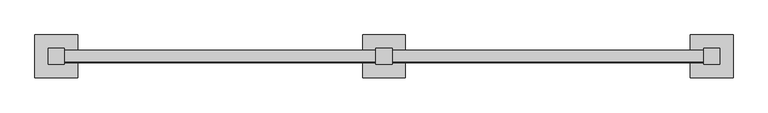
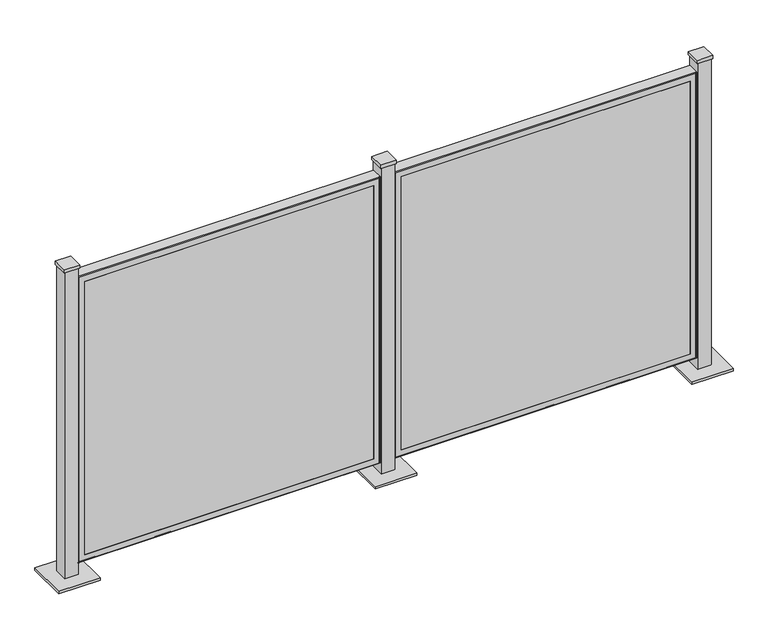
"""IFC4 building model written with IfcOpenShell, lengths in millimetres: proxy geometry, VIVA-Railings_Special-Equipment_Architectural-Fence-&-Landscape-Screens : 44” x 44” - Aluminum 1/8''."""

from ifc_helpers import new_model, si_unit, frame, origin, origin_with_axes, place, context, project, spatial, polyline, ellipse_curve, outline, extrude, source, transform, mapped, element, save
from ifc_brep_helpers import plane_surface, cylinder_surface, revolved_surface, advanced_brep


def specialty_equipment_0be25000(model_context):
    return source(origin(), model_context, "Body", "SolidModel", [
        extrude(outline(polyline([(2489.2, 76.2), (2489.2, -76.2), (2336.8, -76.2), (2336.8, 76.2), (2489.2, 76.2)])), origin_with_axes(), (0.0, 0.0, 1.0), 9.525),
        extrude(outline(polyline([(2441.575, -28.575), (2384.425, -28.575), (2384.425, 28.575), (2441.575, 28.575), (2441.575, -28.575)])), frame((0.0, 0.0, 1206.5), z_axis=(0.0, 0.0, 1.0), x_axis=(1.0, 0.0, 0.0)), (0.0, 0.0, 1.0), 12.7),
        extrude(outline(polyline([(2387.6, 25.4), (2438.4, 25.4), (2438.4, -25.4), (2387.6, -25.4), (2387.6, 25.4)]), holes=[polyline([(2390.775, -22.225), (2435.225, -22.225), (2435.225, 22.225), (2390.775, 22.225), (2390.775, -22.225)])]), frame((0.0, 0.0, 9.525), z_axis=(0.0, 0.0, 1.0), x_axis=(1.0, 0.0, 0.0)), (0.0, 0.0, 1.0), 1196.975),
        advanced_brep(
        [(2387.6, 22.225, 1168.425), (2387.6, -19.05, 1168.425), (2387.6, -19.05, 50.825), (2387.6, 22.225, 50.825), (2384.425, -17.4625, 1165.25), (2384.425, 22.225, 1165.25), (2384.425, 22.225, 54.0), (2384.425, -17.4625, 54.0), (2382.8375, -19.05, 1163.6625), (2382.8375, -19.05, 55.5875), (2362.2, -22.225, 1143.025), (2362.2, -19.05, 1143.025), (2362.2, -19.05, 76.225), (2362.2, -22.225, 76.225), (2384.425, -22.225, 1165.25), (2384.425, -22.225, 54.0), (1270.0, -19.05, 50.825), (1270.0, 22.225, 50.825), (1273.175, 22.225, 54.0), (1273.175, -17.4625, 54.0), (1274.7625, -19.05, 55.5875), (1295.4, -19.05, 76.225), (1295.4, -22.225, 76.225), (1273.175, -22.225, 54.0), (1270.0, -19.05, 1168.425), (1270.0, 22.225, 1168.425), (1273.175, 22.225, 1165.25), (1273.175, -17.4625, 1165.25), (1274.7625, -19.05, 1163.6625), (1295.4, -19.05, 1143.025), (1295.4, -22.225, 1143.025), (1273.175, -22.225, 1165.25)],
        [
            (0, 1),
            (1, 2),
            (2, 3),
            (3, 0),
            (4, 5),
            (5, 6),
            (6, 7),
            (7, 4),
            (8, 4, ellipse_curve(frame((2382.8375, -17.4625, 1163.6625), z_axis=(-0.7071067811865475, 0.0, 0.7071067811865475), x_axis=(-0.7071067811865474, 0.0, -0.7071067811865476)), 2.245064, 1.5875)),
            (7, 9, ellipse_curve(frame((2382.8375, -17.4625, 55.5875), z_axis=(-0.7071067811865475, 0.0, -0.7071067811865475), x_axis=(0.7071067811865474, 0.0, -0.7071067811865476)), 2.245064, 1.5875)),
            (9, 8),
            (10, 11),
            (11, 12),
            (12, 13),
            (13, 10),
            (1, 14, ellipse_curve(frame((2384.425, -19.05, 1165.25), z_axis=(0.7071067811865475, 0.0, -0.7071067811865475), x_axis=(0.7071067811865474, 0.0, 0.7071067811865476)), 4.4901281, 3.175)),
            (14, 15),
            (15, 2, ellipse_curve(frame((2384.425, -19.05, 54.0), z_axis=(0.7071067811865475, 0.0, 0.7071067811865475), x_axis=(-0.7071067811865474, 0.0, 0.7071067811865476)), 4.4901281, 3.175)),
            (2, 16),
            (16, 17),
            (17, 3),
            (6, 18),
            (18, 19),
            (19, 7),
            (19, 20, ellipse_curve(frame((1274.7625, -17.4625, 55.5875), z_axis=(-0.7071067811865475, 0.0, 0.7071067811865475), x_axis=(-0.7071067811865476, 0.0, -0.7071067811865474)), 2.245064, 1.5875)),
            (20, 9),
            (12, 21),
            (21, 22),
            (22, 13),
            (15, 23),
            (23, 16, ellipse_curve(frame((1273.175, -19.05, 54.0), z_axis=(0.7071067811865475, 0.0, -0.7071067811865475), x_axis=(0.7071067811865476, 0.0, 0.7071067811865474)), 4.4901281, 3.175)),
            (16, 24),
            (24, 25),
            (25, 17),
            (18, 26),
            (26, 27),
            (27, 19),
            (27, 28, ellipse_curve(frame((1274.7625, -17.4625, 1163.6625), z_axis=(0.7071067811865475, 0.0, 0.7071067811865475), x_axis=(-0.7071067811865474, 0.0, 0.7071067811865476)), 2.245064, 1.5875)),
            (28, 20),
            (21, 29),
            (29, 30),
            (30, 22),
            (23, 31),
            (31, 24, ellipse_curve(frame((1273.175, -19.05, 1165.25), z_axis=(-0.7071067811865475, 0.0, -0.7071067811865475), x_axis=(0.7071067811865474, 0.0, -0.7071067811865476)), 4.4901281, 3.175)),
            (24, 1),
            (0, 25),
            (5, 26),
            (4, 27),
            (8, 28),
            (11, 29),
            (10, 30),
            (14, 31),
        ],
        [
            plane_surface(frame((2387.6, -19.05, 1168.425), z_axis=(1.0, 0.0, 0.0), x_axis=(0.0, 0.0, -1.0))),
            plane_surface(frame((2384.425, 22.225, 1165.25), z_axis=(-1.0, 0.0, 0.0), x_axis=(0.0, 0.0, -1.0))),
            revolved_surface(polyline([(2384.425, -17.4625, 54.0), (2384.425, -17.4625, 1165.25)]), (2382.8375, -17.4625, 1168.425), (0.0, 0.0, -1.0)),
            plane_surface(frame((2362.2, -19.05, 1143.025), z_axis=(-1.0, 0.0, 0.0), x_axis=(0.0, 0.0, -1.0))),
            cylinder_surface(frame((2384.425, -19.05, 1168.425), z_axis=(0.0, 0.0, 1.0), x_axis=(1.0, 0.0, 0.0)), 3.175),
            plane_surface(frame((2387.6, -19.05, 50.825), z_axis=(0.0, 0.0, -1.0), x_axis=(-1.0, 0.0, 0.0))),
            plane_surface(frame((2384.425, 22.225, 54.0), z_axis=(0.0, 0.0, 1.0), x_axis=(-1.0, 0.0, 0.0))),
            revolved_surface(polyline([(1273.175, -17.4625, 54.0), (2384.425, -17.4625, 54.0)]), (2387.6, -17.4625, 55.5875), (-1.0, 0.0, 0.0)),
            plane_surface(frame((2362.2, -19.05, 76.225), z_axis=(0.0, 0.0, 1.0), x_axis=(-1.0, 0.0, 0.0))),
            cylinder_surface(frame((2387.6, -19.05, 54.0), z_axis=(1.0, 0.0, 0.0), x_axis=(0.0, 0.0, -1.0)), 3.175),
            plane_surface(frame((1270.0, -19.05, 50.825), z_axis=(-1.0, 0.0, 0.0), x_axis=(0.0, 0.0, 1.0))),
            plane_surface(frame((1273.175, 22.225, 54.0), z_axis=(1.0, 0.0, 0.0), x_axis=(0.0, 0.0, 1.0))),
            revolved_surface(polyline([(1273.175, -17.4625, 1165.25), (1273.175, -17.4625, 54.0)]), (1274.7625, -17.4625, 50.825), (0.0, 0.0, 1.0)),
            plane_surface(frame((1295.4, -19.05, 76.225), z_axis=(1.0, 0.0, 0.0), x_axis=(0.0, 0.0, 1.0))),
            cylinder_surface(frame((1273.175, -19.05, 50.825), z_axis=(0.0, 0.0, -1.0), x_axis=(-1.0, 0.0, 0.0)), 3.175),
            plane_surface(frame((1270.0, -19.05, 1168.425), z_axis=(0.0, 0.0, 1.0), x_axis=(1.0, 0.0, 0.0))),
            plane_surface(frame((1270.0, 22.225, 1168.425), z_axis=(0.0, 1.0, 0.0), x_axis=(1.0, 0.0, 0.0))),
            plane_surface(frame((1273.175, 22.225, 1165.25), z_axis=(0.0, 0.0, -1.0), x_axis=(1.0, 0.0, 0.0))),
            revolved_surface(polyline([(2384.425, -17.4625, 1165.25), (1273.175, -17.4625, 1165.25)]), (1270.0, -17.4625, 1163.6625), (1.0, 0.0, 0.0)),
            plane_surface(frame((1274.7625, -19.05, 1163.6625), z_axis=(0.0, 1.0, 0.0), x_axis=(1.0, 0.0, 0.0))),
            plane_surface(frame((1295.4, -19.05, 1143.025), z_axis=(0.0, 0.0, -1.0), x_axis=(1.0, 0.0, 0.0))),
            plane_surface(frame((1295.4, -22.225, 1143.025), z_axis=(0.0, -1.0, 0.0), x_axis=(1.0, 0.0, 0.0))),
            cylinder_surface(frame((1270.0, -19.05, 1165.25), z_axis=(-1.0, 0.0, 0.0), x_axis=(0.0, 0.0, 1.0)), 3.175),
        ],
        [
            (0, [[1, 2, 3, 4]]),
            (1, [[5, 6, 7, 8]]),
            (2, [[9, -8, 10, 11]]),
            (3, [[12, 13, 14, 15]]),
            (4, [[16, 17, 18, -2]]),
            (5, [[-3, 19, 20, 21]]),
            (6, [[-7, 22, 23, 24]]),
            (7, [[-10, -24, 25, 26]]),
            (8, [[-14, 27, 28, 29]]),
            (9, [[-18, 30, 31, -19]]),
            (10, [[-20, 32, 33, 34]]),
            (11, [[-23, 35, 36, 37]]),
            (12, [[-25, -37, 38, 39]]),
            (13, [[-28, 40, 41, 42]]),
            (14, [[-31, 43, 44, -32]]),
            (15, [[-33, 45, -1, 46]]),
            (16, [[-21, -34, -46, -4], [47, -35, -22, -6]]),
            (17, [[-36, -47, -5, 48]]),
            (18, [[-38, -48, -9, 49]]),
            (19, [[-26, -39, -49, -11], [50, -40, -27, -13]]),
            (20, [[-41, -50, -12, 51]]),
            (21, [[52, -43, -30, -17], [-29, -42, -51, -15]]),
            (22, [[-44, -52, -16, -45]]),
        ],
    ),
        advanced_brep(
        [(1219.2, 22.225, 1168.425), (1219.2, -19.05, 1168.425), (1219.2, -19.05, 50.825), (1219.2, 22.225, 50.825), (1216.025, -17.4625, 1165.25), (1216.025, 22.225, 1165.25), (1216.025, 22.225, 54.0), (1216.025, -17.4625, 54.0), (1214.4375, -19.05, 1163.6625), (1214.4375, -19.05, 55.5875), (1193.8, -22.225, 1143.025), (1193.8, -19.05, 1143.025), (1193.8, -19.05, 76.225), (1193.8, -22.225, 76.225), (1216.025, -22.225, 1165.25), (1216.025, -22.225, 54.0), (101.6, -19.05, 50.825), (101.6, 22.225, 50.825), (104.775, 22.225, 54.0), (104.775, -17.4625, 54.0), (106.3625, -19.05, 55.5875), (127.0, -19.05, 76.225), (127.0, -22.225, 76.225), (104.775, -22.225, 54.0), (101.6, -19.05, 1168.425), (101.6, 22.225, 1168.425), (104.775, 22.225, 1165.25), (104.775, -17.4625, 1165.25), (106.3625, -19.05, 1163.6625), (127.0, -19.05, 1143.025), (127.0, -22.225, 1143.025), (104.775, -22.225, 1165.25)],
        [
            (0, 1),
            (1, 2),
            (2, 3),
            (3, 0),
            (4, 5),
            (5, 6),
            (6, 7),
            (7, 4),
            (8, 4, ellipse_curve(frame((1214.4375, -17.4625, 1163.6625), z_axis=(-0.7071067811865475, 0.0, 0.7071067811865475), x_axis=(-0.7071067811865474, 0.0, -0.7071067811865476)), 2.245064, 1.5875)),
            (7, 9, ellipse_curve(frame((1214.4375, -17.4625, 55.5875), z_axis=(-0.7071067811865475, 0.0, -0.7071067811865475), x_axis=(0.7071067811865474, 0.0, -0.7071067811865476)), 2.245064, 1.5875)),
            (9, 8),
            (10, 11),
            (11, 12),
            (12, 13),
            (13, 10),
            (1, 14, ellipse_curve(frame((1216.025, -19.05, 1165.25), z_axis=(0.7071067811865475, 0.0, -0.7071067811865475), x_axis=(0.7071067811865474, 0.0, 0.7071067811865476)), 4.4901281, 3.175)),
            (14, 15),
            (15, 2, ellipse_curve(frame((1216.025, -19.05, 54.0), z_axis=(0.7071067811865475, 0.0, 0.7071067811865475), x_axis=(-0.7071067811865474, 0.0, 0.7071067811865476)), 4.4901281, 3.175)),
            (2, 16),
            (16, 17),
            (17, 3),
            (6, 18),
            (18, 19),
            (19, 7),
            (19, 20, ellipse_curve(frame((106.3625, -17.4625, 55.5875), z_axis=(-0.7071067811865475, 0.0, 0.7071067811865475), x_axis=(-0.7071067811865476, 0.0, -0.7071067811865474)), 2.245064, 1.5875)),
            (20, 9),
            (12, 21),
            (21, 22),
            (22, 13),
            (15, 23),
            (23, 16, ellipse_curve(frame((104.775, -19.05, 54.0), z_axis=(0.7071067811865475, 0.0, -0.7071067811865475), x_axis=(0.7071067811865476, 0.0, 0.7071067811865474)), 4.4901281, 3.175)),
            (16, 24),
            (24, 25),
            (25, 17),
            (18, 26),
            (26, 27),
            (27, 19),
            (27, 28, ellipse_curve(frame((106.3625, -17.4625, 1163.6625), z_axis=(0.7071067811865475, 0.0, 0.7071067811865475), x_axis=(-0.7071067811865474, 0.0, 0.7071067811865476)), 2.245064, 1.5875)),
            (28, 20),
            (21, 29),
            (29, 30),
            (30, 22),
            (23, 31),
            (31, 24, ellipse_curve(frame((104.775, -19.05, 1165.25), z_axis=(-0.7071067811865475, 0.0, -0.7071067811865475), x_axis=(0.7071067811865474, 0.0, -0.7071067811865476)), 4.4901281, 3.175)),
            (24, 1),
            (0, 25),
            (5, 26),
            (4, 27),
            (8, 28),
            (11, 29),
            (10, 30),
            (14, 31),
        ],
        [
            plane_surface(frame((1219.2, -19.05, 1168.425), z_axis=(1.0, 0.0, 0.0), x_axis=(0.0, 0.0, -1.0))),
            plane_surface(frame((1216.025, 22.225, 1165.25), z_axis=(-1.0, 0.0, 0.0), x_axis=(0.0, 0.0, -1.0))),
            revolved_surface(polyline([(1216.025, -17.4625, 54.0), (1216.025, -17.4625, 1165.25)]), (1214.4375, -17.4625, 1168.425), (0.0, 0.0, -1.0)),
            plane_surface(frame((1193.8, -19.05, 1143.025), z_axis=(-1.0, 0.0, 0.0), x_axis=(0.0, 0.0, -1.0))),
            cylinder_surface(frame((1216.025, -19.05, 1168.425), z_axis=(0.0, 0.0, 1.0), x_axis=(1.0, 0.0, 0.0)), 3.175),
            plane_surface(frame((1219.2, -19.05, 50.825), z_axis=(0.0, 0.0, -1.0), x_axis=(-1.0, 0.0, 0.0))),
            plane_surface(frame((1216.025, 22.225, 54.0), z_axis=(0.0, 0.0, 1.0), x_axis=(-1.0, 0.0, 0.0))),
            revolved_surface(polyline([(104.77500000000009, -17.4625, 54.0), (1216.025, -17.4625, 54.0)]), (1219.2, -17.4625, 55.5875), (-1.0, 0.0, 0.0)),
            plane_surface(frame((1193.8, -19.05, 76.225), z_axis=(0.0, 0.0, 1.0), x_axis=(-1.0, 0.0, 0.0))),
            cylinder_surface(frame((1219.2, -19.05, 54.0), z_axis=(1.0, 0.0, 0.0), x_axis=(0.0, 0.0, -1.0)), 3.175),
            plane_surface(frame((101.6, -19.05, 50.825), z_axis=(-1.0, 0.0, 0.0), x_axis=(0.0, 0.0, 1.0))),
            plane_surface(frame((104.775, 22.225, 54.0), z_axis=(1.0, 0.0, 0.0), x_axis=(0.0, 0.0, 1.0))),
            revolved_surface(polyline([(104.77499999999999, -17.4625, 1165.25), (104.77499999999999, -17.4625, 54.0)]), (106.3625, -17.4625, 50.825), (0.0, 0.0, 1.0)),
            plane_surface(frame((127.0, -19.05, 76.225), z_axis=(1.0, 0.0, 0.0), x_axis=(0.0, 0.0, 1.0))),
            cylinder_surface(frame((104.775, -19.05, 50.825), z_axis=(0.0, 0.0, -1.0), x_axis=(-1.0, 0.0, 0.0)), 3.175),
            plane_surface(frame((101.6, -19.05, 1168.425), z_axis=(0.0, 0.0, 1.0), x_axis=(1.0, 0.0, 0.0))),
            plane_surface(frame((101.6, 22.225, 1168.425), z_axis=(0.0, 1.0, 0.0), x_axis=(1.0, 0.0, 0.0))),
            plane_surface(frame((104.775, 22.225, 1165.25), z_axis=(0.0, 0.0, -1.0), x_axis=(1.0, 0.0, 0.0))),
            revolved_surface(polyline([(1216.025, -17.4625, 1165.25), (104.775, -17.4625, 1165.25)]), (101.6, -17.4625, 1163.6625), (1.0, 0.0, 0.0)),
            plane_surface(frame((106.3625, -19.05, 1163.6625), z_axis=(0.0, 1.0, 0.0), x_axis=(1.0, 0.0, 0.0))),
            plane_surface(frame((127.0, -19.05, 1143.025), z_axis=(0.0, 0.0, -1.0), x_axis=(1.0, 0.0, 0.0))),
            plane_surface(frame((127.0, -22.225, 1143.025), z_axis=(0.0, -1.0, 0.0), x_axis=(1.0, 0.0, 0.0))),
            cylinder_surface(frame((101.6, -19.05, 1165.25), z_axis=(-1.0, 0.0, 0.0), x_axis=(0.0, 0.0, 1.0)), 3.175),
        ],
        [
            (0, [[1, 2, 3, 4]]),
            (1, [[5, 6, 7, 8]]),
            (2, [[9, -8, 10, 11]]),
            (3, [[12, 13, 14, 15]]),
            (4, [[16, 17, 18, -2]]),
            (5, [[-3, 19, 20, 21]]),
            (6, [[-7, 22, 23, 24]]),
            (7, [[-10, -24, 25, 26]]),
            (8, [[-14, 27, 28, 29]]),
            (9, [[-18, 30, 31, -19]]),
            (10, [[-20, 32, 33, 34]]),
            (11, [[-23, 35, 36, 37]]),
            (12, [[-25, -37, 38, 39]]),
            (13, [[-28, 40, 41, 42]]),
            (14, [[-31, 43, 44, -32]]),
            (15, [[-33, 45, -1, 46]]),
            (16, [[-21, -34, -46, -4], [47, -35, -22, -6]]),
            (17, [[-36, -47, -5, 48]]),
            (18, [[-38, -48, -9, 49]]),
            (19, [[-26, -39, -49, -11], [50, -40, -27, -13]]),
            (20, [[-41, -50, -12, 51]]),
            (21, [[52, -43, -30, -17], [-29, -42, -51, -15]]),
            (22, [[-44, -52, -16, -45]]),
        ],
    ),
        extrude(outline(polyline([(2362.2, -22.225), (1295.4, -22.225), (1295.4, -19.05), (2362.2, -19.05), (2362.2, -22.225)])), frame((0.0, 0.0, 76.225), z_axis=(0.0, 0.0, 1.0), x_axis=(1.0, 0.0, 0.0)), (0.0, 0.0, 1.0), 1066.8),
        extrude(outline(polyline([(1193.8, -22.225), (127.0, -22.225), (127.0, -19.05), (1193.8, -19.05), (1193.8, -22.225)])), frame((0.0, 0.0, 76.225), z_axis=(0.0, 0.0, 1.0), x_axis=(1.0, 0.0, 0.0)), (0.0, 0.0, 1.0), 1066.8),
        extrude(outline(polyline([(1320.8, 76.2), (1320.8, -76.2), (1168.4, -76.2), (1168.4, 76.2), (1320.8, 76.2)])), origin_with_axes(), (0.0, 0.0, 1.0), 9.525),
        extrude(outline(polyline([(152.4, 76.2), (152.4, -76.2), (0.0, -76.2), (0.0, 76.2), (152.4, 76.2)])), origin_with_axes(), (0.0, 0.0, 1.0), 9.525),
        extrude(outline(polyline([(1273.175, -28.575), (1216.025, -28.575), (1216.025, 28.575), (1273.175, 28.575), (1273.175, -28.575)])), frame((0.0, 0.0, 1206.5), z_axis=(0.0, 0.0, 1.0), x_axis=(1.0, 0.0, 0.0)), (0.0, 0.0, 1.0), 12.7),
        extrude(outline(polyline([(1219.2, 25.4), (1270.0, 25.4), (1270.0, -25.4), (1219.2, -25.4), (1219.2, 25.4)]), holes=[polyline([(1222.375, -22.225), (1266.825, -22.225), (1266.825, 22.225), (1222.375, 22.225), (1222.375, -22.225)])]), frame((0.0, 0.0, 9.525), z_axis=(0.0, 0.0, 1.0), x_axis=(1.0, 0.0, 0.0)), (0.0, 0.0, 1.0), 1196.975),
        extrude(outline(polyline([(104.775, -28.575), (47.625, -28.575), (47.625, 28.575), (104.775, 28.575), (104.775, -28.575)])), frame((0.0, 0.0, 1206.5), z_axis=(0.0, 0.0, 1.0), x_axis=(1.0, 0.0, 0.0)), (0.0, 0.0, 1.0), 12.7),
        extrude(outline(polyline([(50.8, 25.4), (101.6, 25.4), (101.6, -25.4), (50.8, -25.4), (50.8, 25.4)]), holes=[polyline([(53.975, -22.225), (98.425, -22.225), (98.425, 22.225), (53.975, 22.225), (53.975, -22.225)])]), frame((0.0, 0.0, 9.525), z_axis=(0.0, 0.0, 1.0), x_axis=(1.0, 0.0, 0.0)), (0.0, 0.0, 1.0), 1196.975),
    ])


if __name__ == "__main__":
    model = new_model("IFC4")
    model_context = context("Model", 3, world=origin())
    ifc_project = project(units=[si_unit("LENGTHUNIT", "METRE", prefix="MILLI")], contexts=[model_context])
    site = spatial("IfcSite", under=ifc_project)
    building = spatial("IfcBuilding", under=site)
    placement = place(None, origin())
    specialty_equipment_shape = specialty_equipment_0be25000(model_context)
    element("IfcBuildingElementProxy", 1, Name="VIVA-Railings_Special-Equipment_Architectural-Fence-&-Landscape-Screens : 44” x 44” - Aluminum 1/8''", ObjectType="VIVA-Railings_Special-Equipment_Architectural-Fence-&-Landscape-Screens : 44” x 44” - Aluminum 1/8''", at=placement, inside=building, context=model_context, shape_type="MappedRepresentation", body=[
        mapped(specialty_equipment_shape, transform((0.0, 0.0, 0.0), x_axis=(1.0, 0.0, 0.0), y_axis=(0.0, 1.0, 0.0), z_axis=(0.0, 0.0, 1.0))),
    ])
    save(model, "model.ifc")
